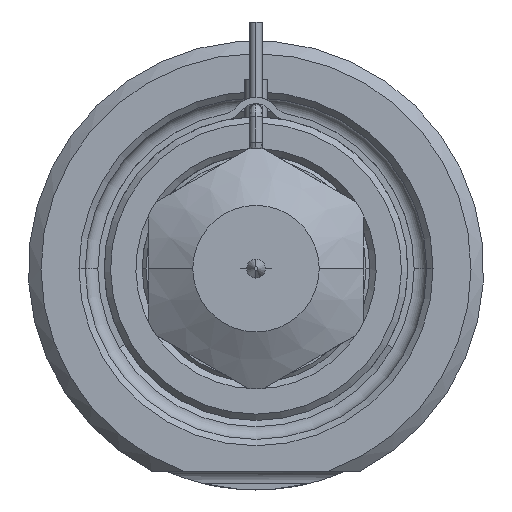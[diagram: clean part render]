
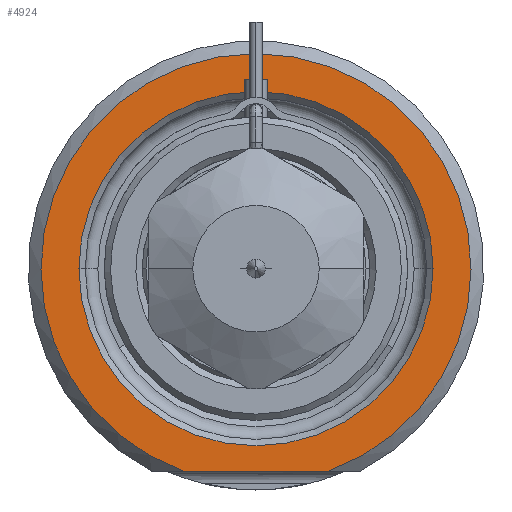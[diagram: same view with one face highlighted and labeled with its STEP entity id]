
A CAD part, front view. The second image highlights one B-rep face of the part: STEP entity #4924.
In plain terms, the highlighted planar face has unit normal (0, -1, 0).
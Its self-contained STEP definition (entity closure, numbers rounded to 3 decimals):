
#1283=CARTESIAN_POINT('',(0.,0.,0.));
#1284=DIRECTION('',(0.,-1.,0.));
#1285=DIRECTION('',(0.338,0.,-0.941));
#1286=AXIS2_PLACEMENT_3D('',#1283,#1284,#1285);
#1307=DIRECTION('',(1.,0.,0.));
#1308=VECTOR('',#1307,11.489);
#1309=CARTESIAN_POINT('',(-5.745,0.,-16.));
#1310=LINE('',#1309,#1308);
#1311=CARTESIAN_POINT('',(0.,0.,0.));
#1312=DIRECTION('',(0.,1.,0.));
#1313=DIRECTION('',(-1.,0.,0.));
#1314=AXIS2_PLACEMENT_3D('',#1311,#1312,#1313);
#1316=CARTESIAN_POINT('',(0.,0.,0.));
#1317=DIRECTION('',(0.,1.,0.));
#1318=DIRECTION('',(1.,0.,0.));
#1319=AXIS2_PLACEMENT_3D('',#1316,#1317,#1318);
#3102=CARTESIAN_POINT('',(-14.,0.,0.));
#3103=CARTESIAN_POINT('',(14.,0.,0.));
#3104=VERTEX_POINT('',#3102);
#3105=VERTEX_POINT('',#3103);
#3152=CARTESIAN_POINT('',(-5.745,0.,-16.));
#3153=CARTESIAN_POINT('',(5.745,0.,-16.));
#3154=VERTEX_POINT('',#3152);
#3155=VERTEX_POINT('',#3153);
#4909=CARTESIAN_POINT('',(0.,0.,0.));
#4910=DIRECTION('',(0.,-1.,0.));
#4911=DIRECTION('',(1.,0.,0.));
#4912=AXIS2_PLACEMENT_3D('',#4909,#4910,#4911);
#4913=PLANE('',#4912);
#4914=ORIENTED_EDGE('',*,*,#4841,.F.);
#4915=ORIENTED_EDGE('',*,*,#4901,.F.);
#4916=EDGE_LOOP('',(#4914,#4915));
#4917=FACE_OUTER_BOUND('',#4916,.F.);
#4919=ORIENTED_EDGE('',*,*,#4918,.F.);
#4921=ORIENTED_EDGE('',*,*,#4920,.F.);
#4922=EDGE_LOOP('',(#4919,#4921));
#4923=FACE_BOUND('',#4922,.F.);
#4924=ADVANCED_FACE('',(#4917,#4923),#4913,.T.);
#1287=CIRCLE('',#1286,17.);
#1315=CIRCLE('',#1314,14.);
#1320=CIRCLE('',#1319,14.);
#4841=EDGE_CURVE('',#3154,#3155,#1310,.T.);
#4901=EDGE_CURVE('',#3155,#3154,#1287,.T.);
#4918=EDGE_CURVE('',#3104,#3105,#1315,.T.);
#4920=EDGE_CURVE('',#3105,#3104,#1320,.T.);
